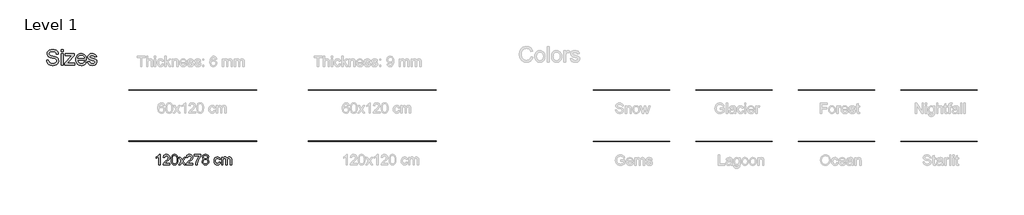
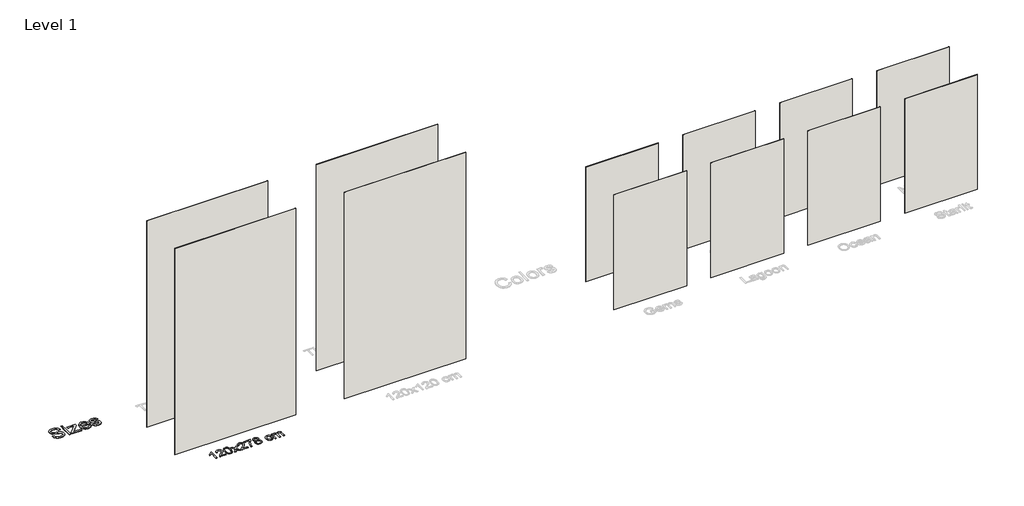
# One storey, part 1 of 7: 12 walls, 2 proxies.
"""IFC4 building model written with IfcOpenShell, lengths in millimetres."""

from ifc_helpers import new_model, si_unit, origin, origin_with_axes, place, context, project, spatial, polyline, outline, extrude, element, save

model = new_model("IFC4")

# Units and contexts
model_context = context("Model", 3, world=origin())
ifc_project = project(units=[si_unit("LENGTHUNIT", "METRE", prefix="MILLI")], contexts=[model_context])

# Site, building, storey
site = spatial("IfcSite", under=ifc_project)
building = spatial("IfcBuilding", under=site)
storey = spatial("IfcBuildingStorey", under=building, Name="Level 1", Elevation=0.0)

# Proxies
placement = place(None, origin())
element("IfcBuildingElementProxy", 1, Name="400mm Arial", ObjectType="400mm Arial", at=placement, inside=storey, context=model_context, shape_type="SweptSolid", body=[
    extrude(outline(polyline([(-22215.9447638, 7785.1077423), (-22266.1729189, 7785.1077423), (-22266.1729189, 8098.2488966), (-22287.1421926, 8081.2895366), (-22313.7523236, 8064.3547021), (-22366.629229, 8038.9953699), (-22366.629229, 8086.4766728), (-22327.1800164, 8107.9364558), (-22293.003779, 8133.4674663), (-22266.0625543, 8160.6171575), (-22248.3183794, 8186.9329829), (-22215.9447638, 8186.9329829), (-22215.9447638, 7785.1077423)])), origin_with_axes(), (0.0, 0.0, 1.0), 5.0),
    extrude(outline(polyline([(-21839.2336007, 7835.3358974), (-21839.2336007, 7785.1077423), (-22102.9314149, 7785.1077423), (-22101.8277689, 7802.7906035), (-22097.5358123, 7819.7377008), (-22085.138189, 7846.8015529), (-22066.9770812, 7873.0560646), (-22040.7225695, 7900.5368497), (-22004.0447346, 7931.2795217), (-21949.8557167, 7979.4230122), (-21917.3717365, 8014.9604129), (-21901.1481405, 8043.8023613), (-21895.7402752, 8071.8594948), (-21900.8538349, 8097.0103605), (-21916.1945141, 8117.9183206), (-21939.77575, 8132.008201), (-21969.6109798, 8136.7048278), (-22000.9422631, 8132.1185656), (-22025.2837884, 8118.359779), (-22040.9923496, 8096.5075885), (-22046.4247404, 8067.6411146), (-22096.6528955, 8073.919634), (-22092.3333477, 8099.8491833), (-22084.4760014, 8122.5045828), (-22073.0808566, 8141.8858326), (-22058.1479133, 8157.9929326), (-22040.020528, 8170.6542046), (-22019.0420572, 8179.6979703), (-21995.212501, 8185.1242298), (-21968.5318593, 8186.9329829), (-21941.6120943, 8184.9218947), (-21917.6537794, 8178.8886299), (-21896.6569145, 8168.8331887), (-21878.6214997, 8154.7555711), (-21864.1361461, 8137.6981092), (-21853.789465, 8118.7031355), (-21847.5814563, 8097.77065), (-21845.5121201, 8074.9006526), (-21847.7439375, 8050.8779584), (-21854.4393899, 8027.272197), (-21866.3219783, 8003.2617654), (-21884.1152041, 7978.0250606), (-21912.478906, 7947.8955252), (-21956.0729224, 7909.206602), (-22013.8549211, 7860.8914333), (-22036.516452, 7835.3358974), (-21839.2336007, 7835.3358974)])), origin_with_axes(), (0.0, 0.0, 1.0), 5.0),
    extrude(outline(polyline([(-21789.0054456, 7982.783001), (-21785.314363, 8047.1010365), (-21774.2411149, 8098.3960494), (-21755.8960661, 8137.4528546), (-21744.0380031, 8152.6862348), (-21730.3895811, 8165.0562669), (-21714.9048148, 8174.6273302), (-21697.5377189, 8181.4638039), (-21657.1565386, 8186.9329829), (-21626.2054, 8183.6956213), (-21598.4916231, 8173.9835367), (-21575.3150574, 8158.1768736), (-21557.9755527, 8136.6557769), (-21544.8789536, 8109.6041875), (-21534.431105, 8077.2060465), (-21527.5884999, 8036.0645767), (-21525.3076315, 7982.783001), (-21528.961926, 7918.8328476), (-21539.9248094, 7867.660462), (-21558.1594937, 7828.5668687), (-21569.9899655, 7813.2875031), (-21583.6291905, 7800.8530917), (-21599.1323509, 7791.2176491), (-21616.554629, 7784.3351901), (-21657.1565386, 7778.8292229), (-21684.8212646, 7781.2204559), (-21709.346731, 7788.3941548), (-21730.7329376, 7800.3503196), (-21748.9798846, 7817.0889504), (-21766.4910675, 7847.3472445), (-21778.9990554, 7885.0490177), (-21786.5038481, 7930.1942698), (-21789.0054456, 7982.783001)]), holes=[polyline([(-21738.7772906, 7982.8811029), (-21737.3057626, 7939.2165758), (-21732.8911786, 7903.8723131), (-21725.5335387, 7876.8483149), (-21715.2328429, 7858.1445811), (-21702.773906, 7845.4189297), (-21688.941543, 7836.3291788), (-21673.7357538, 7830.8753282), (-21657.1565386, 7829.057378), (-21640.5773233, 7830.8814596), (-21625.3715342, 7836.3537042), (-21611.5391712, 7845.474112), (-21599.0802343, 7858.2426829), (-21588.7795384, 7876.9770736), (-21581.4218985, 7903.9949404), (-21577.0073146, 7939.2962835), (-21575.5357866, 7982.8811029), (-21576.9582636, 8025.3898675), (-21581.2256948, 8060.1117964), (-21588.33808, 8087.0468898), (-21598.2954193, 8106.1951477), (-21610.5458898, 8119.5431328), (-21624.5376683, 8129.0774078), (-21640.270755, 8134.7979728), (-21657.7451498, 8136.7048278), (-21674.2385259, 8135.0248334), (-21689.1867976, 8129.9848501), (-21702.589965, 8121.5848778), (-21714.448028, 8109.8249167), (-21725.0920803, 8088.9782703), (-21732.6949749, 8060.8720859), (-21737.2567117, 8025.5063634), (-21738.7772906, 7982.8811029)])]), origin_with_axes(), (0.0, 0.0, 1.0), 5.0),
    extrude(outline(polyline([(-21500.193554, 7785.1077423), (-21392.8701132, 7933.5358646), (-21493.9150346, 8080.1981534), (-21433.6804892, 8080.1981534), (-21384.9238621, 8009.4667084), (-21362.0661275, 7976.2101761), (-21342.2495507, 8003.4824946), (-21286.7238949, 8080.1981534), (-21226.2931458, 8080.1981534), (-21332.4393642, 7933.4377628), (-21230.2172204, 7785.1077423), (-21290.5498676, 7785.1077423), (-21352.1578391, 7874.3804398), (-21363.3414518, 7890.7634513), (-21439.7628049, 7785.1077423), (-21500.193554, 7785.1077423)])), origin_with_axes(), (0.0, 0.0, 1.0), 5.0),
    extrude(outline(polyline([(-20941.4053288, 7835.3358974), (-20941.4053288, 7785.1077423), (-21205.1031429, 7785.1077423), (-21203.9994969, 7802.7906035), (-21199.7075403, 7819.7377008), (-21187.3099171, 7846.8015529), (-21169.1488092, 7873.0560646), (-21142.8942975, 7900.5368497), (-21106.2164626, 7931.2795217), (-21052.0274447, 7979.4230122), (-21019.5434645, 8014.9604129), (-21003.3198685, 8043.8023613), (-20997.9120032, 8071.8594948), (-21003.0255629, 8097.0103605), (-21018.3662421, 8117.9183206), (-21041.947478, 8132.008201), (-21071.7827078, 8136.7048278), (-21103.1139911, 8132.1185656), (-21127.4555165, 8118.359779), (-21143.1640776, 8096.5075885), (-21148.5964684, 8067.6411146), (-21198.8246235, 8073.919634), (-21194.5050758, 8099.8491833), (-21186.6477295, 8122.5045828), (-21175.2525847, 8141.8858326), (-21160.3196414, 8157.9929326), (-21142.192256, 8170.6542046), (-21121.2137853, 8179.6979703), (-21097.384229, 8185.1242298), (-21070.7035873, 8186.9329829), (-21043.7838223, 8184.9218947), (-21019.8255074, 8178.8886299), (-20998.8286425, 8168.8331887), (-20980.7932277, 8154.7555711), (-20966.3078741, 8137.6981092), (-20955.961193, 8118.7031355), (-20949.7531844, 8097.77065), (-20947.6838481, 8074.9006526), (-20949.9156656, 8050.8779584), (-20956.6111179, 8027.272197), (-20968.4937063, 8003.2617654), (-20986.2869322, 7978.0250606), (-21014.650634, 7947.8955252), (-21058.2446504, 7909.206602), (-21116.0266491, 7860.8914333), (-21138.68818, 7835.3358974), (-20941.4053288, 7835.3358974)])), origin_with_axes(), (0.0, 0.0, 1.0), 5.0),
    extrude(outline(polyline([(-20891.1771737, 8130.4263084), (-20891.1771737, 8180.6544635), (-20627.4793595, 8180.6544635), (-20627.4793595, 8140.0402913), (-20665.0646367, 8092.4731493), (-20702.2820319, 8031.9810865), (-20735.1093686, 7964.082333), (-20759.5244703, 7894.2951185), (-20771.4928979, 7842.0804006), (-20778.1638248, 7785.1077423), (-20828.3919798, 7785.1077423), (-20822.959589, 7836.8810018), (-20808.4282502, 7898.4153968), (-20785.1903709, 7963.6408746), (-20753.6383584, 8026.4873821), (-20716.801108, 8083.3006249), (-20677.7075146, 8130.4263084), (-20891.1771737, 8130.4263084)])), origin_with_axes(), (0.0, 0.0, 1.0), 5.0),
    extrude(outline(polyline([(-20510.3457323, 8006.4255506), (-20537.2379061, 8019.6693024), (-20556.1102525, 8037.6219438), (-20567.2570769, 8059.9155927), (-20570.9726851, 8086.1823672), (-20568.9493341, 8106.6672629), (-20562.8792812, 8125.4476388), (-20552.7625263, 8142.5234947), (-20538.5990695, 8157.8948308), (-20521.0694924, 8170.5990223), (-20500.8543768, 8179.6734449), (-20477.9537226, 8185.1180984), (-20452.3675298, 8186.9329829), (-20426.6587097, 8185.0751788), (-20403.5863773, 8179.5017666), (-20383.1505324, 8170.2127462), (-20365.3511752, 8157.2081177), (-20350.930201, 8141.5363447), (-20340.6295052, 8124.2458909), (-20334.4490876, 8105.3367564), (-20332.3889485, 8084.808941), (-20336.0555057, 8059.3882952), (-20347.0551773, 8037.474791), (-20365.5105908, 8019.6325142), (-20391.5443733, 8006.4255506), (-20360.630023, 7990.4962602), (-20338.1279076, 7967.0376517), (-20324.4059092, 7937.1778964), (-20319.8319097, 7902.0451658), (-20322.1005153, 7876.992402), (-20328.9063323, 7854.0243027), (-20340.2493604, 7833.1408681), (-20356.1295999, 7814.3420982), (-20375.7131848, 7798.8052153), (-20398.1662492, 7787.7074417), (-20423.4887932, 7781.0487776), (-20451.6808168, 7778.8292229), (-20479.8728403, 7781.0579747), (-20505.1953843, 7787.7442299), (-20527.6484488, 7798.8879887), (-20547.2320337, 7814.489251), (-20563.1122731, 7833.4198453), (-20574.4553013, 7854.5516003), (-20581.2611182, 7877.8845158), (-20583.5297238, 7903.418592), (-20578.7717834, 7939.9124859), (-20564.497962, 7969.9316567), (-20541.4440236, 7992.4460348), (-20510.3457323, 8006.4255506)]), holes=[polyline([(-20520.74453, 8084.7108392), (-20516.2931579, 8062.7850723), (-20502.9390414, 8045.2738893), (-20481.0745882, 8033.795971), (-20451.0922056, 8029.9699983), (-20421.8087988, 8033.7714456), (-20400.2754393, 8045.1757874), (-20387.0316875, 8062.0983592), (-20382.6171036, 8082.4544963), (-20387.1788403, 8103.5831855), (-20400.8640505, 8121.0575803), (-20422.6917156, 8132.7930159), (-20451.6808168, 8136.7048278), (-20480.853859, 8132.8788551), (-20502.6447358, 8121.4009368), (-20516.2195815, 8104.5764669), (-20520.74453, 8084.7108392)]), polyline([(-20533.3015688, 7905.1844255), (-20531.2046414, 7885.9687226), (-20524.9138593, 7867.3661564), (-20513.301051, 7851.1425604), (-20495.238045, 7839.0637683), (-20473.6065837, 7831.5589756), (-20451.2884093, 7829.057378), (-20417.0999092, 7834.3180905), (-20403.2062325, 7840.8939812), (-20391.4462714, 7850.1002281), (-20375.4066164, 7874.0002951), (-20370.0600648, 7903.6147957), (-20375.5782947, 7933.7320684), (-20392.1329845, 7958.1594328), (-20404.2117767, 7967.6017374), (-20418.3752335, 7974.3462406), (-20452.956141, 7979.7418432), (-20486.6663945, 7974.419817), (-20500.4037214, 7967.7672843), (-20512.0625149, 7958.4537384), (-20527.9918053, 7934.4923578), (-20533.3015688, 7905.1844255)])]), origin_with_axes(), (0.0, 0.0, 1.0), 5.0),
    extrude(outline(polyline([(-19918.0066691, 7891.8425718), (-19867.778514, 7885.5640525), (-19873.2415617, 7861.8632549), (-19881.7825553, 7840.8909155), (-19893.401495, 7822.6470342), (-19908.0983807, 7807.1316111), (-19925.2539444, 7794.7493163), (-19944.2489181, 7785.90482), (-19965.0833018, 7780.5981222), (-19987.7570954, 7778.8292229), (-20015.9276592, 7781.297098), (-20041.1858238, 7788.7007231), (-20063.5315894, 7801.0400984), (-20082.9649557, 7818.3152237), (-20098.6949767, 7840.2011368), (-20109.930706, 7866.372875), (-20116.6721436, 7896.8304386), (-20118.9192894, 7931.5738273), (-20115.0810539, 7976.2714897), (-20103.5663475, 8015.0094638), (-20084.1912291, 8046.2916961), (-20056.7717577, 8068.6221333), (-20023.9689465, 8082.0130379), (-19988.4438085, 8086.4766728), (-19966.1593566, 8084.9438311), (-19946.0024889, 8080.3453062), (-19927.9732055, 8072.6810979), (-19912.0715063, 8061.9512064), (-19898.5671713, 8048.4008863), (-19887.7299809, 8032.2753921), (-19879.5599349, 8013.574724), (-19874.0570334, 7992.298882), (-19924.2851885, 7986.0203626), (-19933.3963992, 8007.9338668), (-19947.5843815, 8023.642428), (-19966.0643204, 8033.0969953), (-19988.051401, 8036.2485177), (-20005.1180599, 8034.6972819), (-20020.5108557, 8030.0435747), (-20034.2297884, 8022.287396), (-20046.2748581, 8011.4287457), (-20056.0819789, 7997.216238), (-20063.0870653, 7979.3984867), (-20067.2901171, 7957.9754918), (-20068.6911343, 7932.9472534), (-20063.2096926, 7885.8706208), (-20056.3578904, 7867.9333078), (-20046.7653674, 7853.7299971), (-20034.9594211, 7842.9357263), (-20021.4673489, 7835.2255328), (-20006.2891509, 7830.5994167), (-19989.4248271, 7829.057378), (-19963.41557, 7832.9078762), (-19942.0906771, 7844.4593709), (-19926.5783196, 7864.0061675), (-19918.0066691, 7891.8425718)])), origin_with_axes(), (0.0, 0.0, 1.0), 5.0),
    extrude(outline(polyline([(-19823.8288783, 7785.1077423), (-19823.8288783, 8080.1981534), (-19773.6007233, 8080.1981534), (-19773.6007233, 8031.63773), (-19758.493036, 8053.9436416), (-19739.0688667, 8071.4180364), (-19715.9904028, 8082.7120137), (-19689.9198321, 8086.4766728), (-19661.9853259, 8082.6384373), (-19639.5935752, 8071.1237308), (-19622.8672071, 8052.6928429), (-19611.9288491, 8028.1060629), (-19593.6205885, 8053.6432047), (-19572.7371539, 8071.8840203), (-19549.2785453, 8082.8285096), (-19523.2447628, 8086.4766728), (-19503.1369461, 8084.9591595), (-19485.4878074, 8080.4066198), (-19470.2973467, 8072.8190537), (-19457.5655639, 8062.1964611), (-19447.5009257, 8048.4162147), (-19440.3118984, 8031.3556871), (-19435.998482, 8011.0148785), (-19434.5606765, 7987.3937887), (-19434.5606765, 7785.1077423), (-19484.7888316, 7785.1077423), (-19484.7888316, 7965.8113783), (-19485.9537912, 7990.8641422), (-19489.4486702, 8007.7499258), (-19495.9969697, 8019.3136832), (-19506.322191, 8028.4003684), (-19519.6027311, 8034.2864804), (-19535.0169867, 8036.2485177), (-19562.2279916, 8031.2207971), (-19584.4112759, 8016.1376353), (-19593.0166489, 8004.5677465), (-19599.1633439, 7989.9689627), (-19604.0806999, 7951.6847097), (-19604.0806999, 7785.1077423), (-19654.308855, 7785.1077423), (-19654.308855, 7971.4031847), (-19657.2151227, 7999.8036747), (-19665.933926, 8020.0617099), (-19681.2746052, 8032.2018157), (-19704.0465007, 8036.2485177), (-19723.3970937, 8033.5507164), (-19741.2271077, 8025.4573125), (-19755.9423875, 8012.1645097), (-19765.9487778, 7993.8685118), (-19771.6877369, 7968.4846542), (-19773.6007233, 7933.9282721), (-19773.6007233, 7785.1077423), (-19823.8288783, 7785.1077423)])), origin_with_axes(), (0.0, 0.0, 1.0), 5.0),
])
element("IfcBuildingElementProxy", 2, Name="600mm Arial", ObjectType="600mm Arial", at=placement, inside=storey, context=model_context, shape_type="SweptSolid", body=[
    extrude(outline(polyline([(-26653.6818115, 11886.1060003), (-26578.3395788, 11886.1060003), (-26569.694352, 11844.2962116), (-26554.0593672, 11810.6901913), (-26529.6687909, 11784.0187467), (-26494.7567895, 11763.0126847), (-26452.0824781, 11749.3826568), (-26404.4049715, 11744.8393142), (-26362.4296359, 11748.2790108), (-26325.6782246, 11758.5981008), (-26295.8981771, 11774.9320614), (-26274.8369328, 11796.4163699), (-26262.3105509, 11821.0828577), (-26258.1350902, 11846.963356), (-26261.2620872, 11872.1816668), (-26270.6430781, 11893.978675), (-26289.6993654, 11912.5751099), (-26321.8522518, 11928.1917006), (-26431.5546628, 11956.9600726), (-26503.5675633, 11975.9979658), (-26549.6447832, 11994.1161541), (-26587.1503526, 12019.4632236), (-26613.7298268, 12050.1813702), (-26629.5671467, 12085.6084063), (-26634.8462533, 12125.0821444), (-26633.213777, 12147.5183476), (-26628.3163479, 12169.2095897), (-26620.1539661, 12190.1558708), (-26608.7266317, 12210.3571909), (-26594.1631032, 12228.9904139), (-26576.5921394, 12245.232404), (-26556.0137403, 12259.0831611), (-26532.4279059, 12270.5426853), (-26479.4161103, 12285.9385468), (-26420.7389321, 12291.0705006), (-26357.1689233, 12285.6994235), (-26301.5451657, 12269.5861921), (-26277.2097717, 12257.584042), (-26255.8542219, 12243.0619002), (-26237.4785162, 12226.0197668), (-26222.0826547, 12206.4576417), (-26209.786199, 12184.945742), (-26200.7087108, 12162.0542849), (-26194.85019, 12137.7832703), (-26192.2106367, 12112.1326982), (-26267.5528693, 12112.1326982), (-26272.5928527, 12136.1737865), (-26281.3852323, 12157.087878), (-26293.9300084, 12174.8749724), (-26310.2271808, 12189.5350699), (-26330.5802521, 12200.9945941), (-26355.2927252, 12209.1799685), (-26384.3645998, 12214.0911931), (-26417.7958762, 12215.728268), (-26452.2940103, 12214.1095872), (-26481.7705551, 12209.2535449), (-26506.2255107, 12201.160141), (-26525.6588771, 12189.8293755), (-26540.4661274, 12176.2085447), (-26551.0427348, 12161.2449445), (-26557.3886992, 12144.9385751), (-26559.5040207, 12127.2894364), (-26558.0049016, 12112.105107), (-26553.5075442, 12098.3371233), (-26546.0119485, 12085.9854853), (-26535.5181146, 12075.050193), (-26519.000213, 12064.6943149), (-26492.990956, 12054.2280721), (-26412.4983754, 12032.9644928), (-26329.4306209, 12012.7677713), (-26279.1779404, 11995.1462237), (-26236.2277174, 11967.8125914), (-26219.6224439, 11951.7453453), (-26206.2637289, 11934.0778125), (-26195.9952227, 11914.9019635), (-26188.6605755, 11894.3097688), (-26182.7928576, 11848.8763424), (-26184.4805163, 11825.3089021), (-26189.5434922, 11802.4312405), (-26197.9817855, 11780.2433577), (-26209.7953961, 11758.7452536), (-26224.7773903, 11738.7692612), (-26242.7208346, 11721.1477137), (-26263.625729, 11705.8806109), (-26287.4920735, 11692.9679528), (-26313.6254907, 11682.6994467), (-26341.3316035, 11675.3647994), (-26401.4619156, 11669.4970816), (-26440.0021531, 11671.0789741), (-26475.2774379, 11675.8246519), (-26507.28777, 11683.7341148), (-26536.0331494, 11694.8073628), (-26561.68832, 11709.0627901), (-26584.4280259, 11726.5187908), (-26604.2522669, 11747.1753648), (-26621.1610431, 11771.0325122), (-26634.781874, 11797.3176808), (-26644.742279, 11825.2583183), (-26651.0422581, 11854.8544248), (-26653.6818115, 11886.1060003)])), origin_with_axes(), (0.0, 0.0, 1.0), 5.0),
    extrude(outline(polyline([(-26079.1972878, 12206.3104889), (-26079.1972878, 12281.6527215), (-26003.8550552, 12281.6527215), (-26003.8550552, 12206.3104889), (-26079.1972878, 12206.3104889)])), origin_with_axes(), (0.0, 0.0, 1.0), 5.0),
    extrude(outline(polyline([(-26079.1972878, 11678.9148606), (-26079.1972878, 12121.5504772), (-26003.8550552, 12121.5504772), (-26003.8550552, 11678.9148606), (-26079.1972878, 11678.9148606)])), origin_with_axes(), (0.0, 0.0, 1.0), 5.0),
    extrude(outline(polyline([(-25937.9306016, 11678.9148606), (-25937.9306016, 11749.8425093), (-25677.9116075, 12046.2082446), (-25754.8725208, 12046.2082446), (-25919.0950435, 12046.2082446), (-25919.0950435, 12121.5504772), (-25570.6372177, 12121.5504772), (-25570.6372177, 12057.5390101), (-25801.2256522, 11794.5769599), (-25836.5423238, 11754.2570932), (-25749.4278673, 11754.2570932), (-25561.2194386, 11754.2570932), (-25561.2194386, 11678.9148606), (-25937.9306016, 11678.9148606)])), origin_with_axes(), (0.0, 0.0, 1.0), 5.0),
    extrude(outline(polyline([(-25175.9734132, 11810.7637677), (-25102.1027086, 11801.3459886), (-25113.4288755, 11771.7590792), (-25128.718971, 11745.6854428), (-25147.9729949, 11723.1250794), (-25171.1909473, 11704.0779891), (-25198.1337049, 11688.9488421), (-25228.5621444, 11678.1423084), (-25262.4762659, 11671.6583883), (-25299.8760692, 11669.4970816), (-25346.6246737, 11673.2264853), (-25388.2781127, 11684.4146965), (-25424.8363859, 11703.0617151), (-25456.2994936, 11729.1675412), (-25481.6005778, 11762.0056078), (-25499.6727808, 11800.8493479), (-25510.5161026, 11845.6987617), (-25514.1305432, 11896.553849), (-25510.4793144, 11949.1333831), (-25499.525628, 11995.4773175), (-25481.269484, 12035.585652), (-25455.7108824, 12069.4583867), (-25424.3305482, 12096.3689547), (-25388.6092064, 12115.5907889), (-25348.5468572, 12127.1238895), (-25304.1435004, 12130.9682563), (-25261.1702848, 12127.1330865), (-25222.3081505, 12115.6275771), (-25187.5570976, 12096.4517281), (-25156.9171259, 12069.6055395), (-25131.9057487, 12035.8063812), (-25114.0404793, 11995.7716231), (-25103.3213177, 11949.5012651), (-25099.7482638, 11896.9953074), (-25100.1897222, 11876.6882212), (-25438.7883106, 11876.6882212), (-25434.4243104, 11846.6230652), (-25425.7468939, 11820.2919114), (-25412.7560609, 11797.6947598), (-25395.4518116, 11778.8316105), (-25374.790639, 11763.9599809), (-25351.7290364, 11753.3373883), (-25326.2670038, 11746.9638327), (-25298.4045412, 11744.8393142), (-25258.3054038, 11748.7756515), (-25224.5338366, 11760.5846636), (-25197.0898398, 11781.0021143), (-25175.9734132, 11810.7637677)]), holes=[polyline([(-25438.7883106, 11952.0304539), (-25175.0904964, 11952.0304539), (-25185.2808277, 11991.8352857), (-25194.0456162, 12007.4886646), (-25205.2568201, 12020.3093522), (-25225.8030295, 12035.760396), (-25249.1819303, 12046.7968558), (-25275.3935224, 12053.4187317), (-25304.437806, 12055.6260237), (-25330.9299081, 12053.8647886), (-25355.2239154, 12048.5810835), (-25377.3198277, 12039.7749082), (-25397.2176451, 12027.4462629), (-25413.9148892, 12012.1653645), (-25426.4090815, 11994.5024302), (-25434.7002219, 11974.45746), (-25438.7883106, 11952.0304539)])]), origin_with_axes(), (0.0, 0.0, 1.0), 5.0),
    extrude(outline(polyline([(-25052.6593685, 11810.7637677), (-24977.3171358, 11820.1815468), (-24972.7645961, 11803.0014576), (-24965.4345474, 11787.955084), (-24955.3269896, 11775.042426), (-24942.4419227, 11764.2634835), (-24926.7425586, 11755.7654094), (-24908.1921089, 11749.6953565), (-24862.5379533, 11744.8393142), (-24817.4356207, 11749.2906863), (-24799.9060437, 11754.8549015), (-24785.7241928, 11762.6448027), (-24766.962211, 11781.9953957), (-24762.2717156, 11792.8295204), (-24760.7082171, 11804.4361974), (-24762.2809126, 11814.6081346), (-24766.9989992, 11823.6396375), (-24785.8713455, 11838.2813409), (-24814.0878946, 11847.8462728), (-24863.4208701, 11859.7656495), (-24932.178015, 11879.6496713), (-24976.8756774, 11896.6274254), (-25005.5888672, 11915.1502838), (-25026.392594, 11939.6696188), (-25039.0293405, 11968.6219318), (-25043.2415894, 12000.4437244), (-25039.857075, 12029.6351607), (-25029.703532, 12056.5825169), (-25013.7006652, 12080.2189351), (-24992.7681796, 12099.4775575), (-24971.9644528, 12111.5992693), (-24944.8699439, 12121.7712064), (-24913.544792, 12128.6689938), (-24880.0491363, 12130.9682563), (-24831.0104664, 12127.2710423), (-24788.3729431, 12116.1794001), (-24754.0863412, 12098.7785817), (-24730.1004351, 12076.153839), (-24714.2079329, 12046.6313089), (-24704.2015426, 12008.5371283), (-24779.5437752, 11999.1193492), (-24789.0535248, 12022.8293438), (-24807.8706889, 12040.6900147), (-24836.1792084, 12051.8920214), (-24874.1630244, 12055.6260237), (-24917.425947, 12052.0575683), (-24946.2678954, 12041.3522023), (-24962.4914914, 12025.9011585), (-24967.8993568, 12008.0956699), (-24965.6552766, 11996.5073871), (-24958.9230361, 11986.169903), (-24947.4083296, 11976.9360649), (-24930.8168516, 11969.5416368), (-24865.9224677, 11953.5019818), (-24755.33714, 11918.0381575), (-24726.1273095, 11901.0787975), (-24703.9808134, 11877.8654436), (-24690.0196917, 11848.3245194), (-24685.3659845, 11812.3824485), (-24690.8290321, 11775.226367), (-24707.218175, 11740.2775774), (-24733.9080137, 11710.2768007), (-24770.273149, 11687.9647577), (-24814.1982592, 11674.1140006), (-24863.5680229, 11669.4970816), (-24904.1178158, 11671.7227676), (-24939.5356549, 11678.3998258), (-24969.8215402, 11689.5282562), (-24994.9754716, 11705.1080587), (-25015.521681, 11725.0656569), (-25031.9844003, 11749.3274745), (-25044.3636295, 11777.8935114), (-25052.6593685, 11810.7637677)])), origin_with_axes(), (0.0, 0.0, 1.0), 5.0),
])

# Walls
element("IfcWall", 3, ObjectType="Ceramiche Caesar - Anima Wonder - Snow - 60x120 - 9 mm - Polished", at=placement, inside=storey, context=model_context, shape_type="SweptSolid", body=[
    extrude(outline(polyline([(-2332.7191564, 10698.8255368), (-5332.7191564, 10698.8255368), (-5332.7191564, 10707.8255368), (-2332.7191564, 10707.8255368), (-2332.7191564, 10698.8255368)])), origin_with_axes(), (0.0, 0.0, 1.0), 5000.0),
])
element("IfcWall", 4, ObjectType="Ceramiche Caesar - Anima Wonder - Glacier - 60x120 - 9 mm - Polished", at=placement, inside=storey, context=model_context, shape_type="SweptSolid", body=[
    extrude(outline(polyline([(1667.2808436, 10698.8255368), (-1332.7191564, 10698.8255368), (-1332.7191564, 10707.8255368), (1667.2808436, 10707.8255368), (1667.2808436, 10698.8255368)])), origin_with_axes(), (0.0, 0.0, 1.0), 5000.0),
])
element("IfcWall", 5, ObjectType="Ceramiche Caesar - Anima Wonder - Forest - 60x120 - 9 mm - Polished", at=placement, inside=storey, context=model_context, shape_type="SweptSolid", body=[
    extrude(outline(polyline([(5667.2808436, 10698.8255368), (2667.2808436, 10698.8255368), (2667.2808436, 10707.8255368), (5667.2808436, 10707.8255368), (5667.2808436, 10698.8255368)])), origin_with_axes(), (0.0, 0.0, 1.0), 5000.0),
])
element("IfcWall", 6, ObjectType="Ceramiche Caesar - Anima Wonder - Nightfall - 60x120 - 9 mm - Polished", at=placement, inside=storey, context=model_context, shape_type="SweptSolid", body=[
    extrude(outline(polyline([(9667.2808436, 10698.8255368), (6667.2808436, 10698.8255368), (6667.2808436, 10707.8255368), (9667.2808436, 10707.8255368), (9667.2808436, 10698.8255368)])), origin_with_axes(), (0.0, 0.0, 1.0), 5000.0),
])
element("IfcWall", 7, ObjectType="Ceramiche Caesar - Anima Wonder - Gems - 60x120 - 6 mm - Polished", at=placement, inside=storey, context=model_context, shape_type="SweptSolid", body=[
    extrude(outline(polyline([(-2332.7191564, 8694.3255368), (-5332.7191564, 8694.3255368), (-5332.7191564, 8700.3255368), (-2332.7191564, 8700.3255368), (-2332.7191564, 8694.3255368)])), origin_with_axes(), (0.0, 0.0, 1.0), 5000.0),
])
element("IfcWall", 8, ObjectType="Ceramiche Caesar - Anima Wonder - Lagoon - 60x120 - 6 mm - Polished", at=placement, inside=storey, context=model_context, shape_type="SweptSolid", body=[
    extrude(outline(polyline([(1667.2808436, 8694.3255368), (-1332.7191564, 8694.3255368), (-1332.7191564, 8700.3255368), (1667.2808436, 8700.3255368), (1667.2808436, 8694.3255368)])), origin_with_axes(), (0.0, 0.0, 1.0), 5000.0),
])
element("IfcWall", 9, ObjectType="Ceramiche Caesar - Anima Wonder - Ocean - 60x120 - 6 mm - Polished", at=placement, inside=storey, context=model_context, shape_type="SweptSolid", body=[
    extrude(outline(polyline([(5667.2808436, 8694.3255368), (2667.2808436, 8694.3255368), (2667.2808436, 8700.3255368), (5667.2808436, 8700.3255368), (5667.2808436, 8694.3255368)])), origin_with_axes(), (0.0, 0.0, 1.0), 5000.0),
])
element("IfcWall", 10, ObjectType="Ceramiche Caesar - Anima Wonder - Starlit - 60x120 - 6 mm - Polished", at=placement, inside=storey, context=model_context, shape_type="SweptSolid", body=[
    extrude(outline(polyline([(9667.2808436, 8694.3255368), (6667.2808436, 8694.3255368), (6667.2808436, 8700.3255368), (9667.2808436, 8700.3255368), (9667.2808436, 8694.3255368)])), origin_with_axes(), (0.0, 0.0, 1.0), 5000.0),
])
element("IfcWall", 11, ObjectType="Ceramiche Caesar - Anima Wonder - Starlit - 60x120 - 6 mm - Polished", at=placement, inside=storey, context=model_context, shape_type="SweptSolid", body=[
    extrude(outline(polyline([(-18443.7333503, 10701.8255368), (-23443.7333503, 10701.8255368), (-23443.7333503, 10707.8255368), (-18443.7333503, 10707.8255368), (-18443.7333503, 10701.8255368)])), origin_with_axes(), (0.0, 0.0, 1.0), 9000.0),
])
element("IfcWall", 12, ObjectType="Ceramiche Caesar - Anima Wonder - Lagoon - 120x278 - 6 mm - Polished", at=placement, inside=storey, context=model_context, shape_type="SweptSolid", body=[
    extrude(outline(polyline([(-18443.7333503, 8701.8255368), (-23443.7333503, 8701.8255368), (-23443.7333503, 8707.8255368), (-18443.7333503, 8707.8255368), (-18443.7333503, 8701.8255368)])), origin_with_axes(), (0.0, 0.0, 1.0), 9000.0),
])
element("IfcWall", 13, ObjectType="Ceramiche Caesar - Anima Wonder - Glacier - 60x120 - 9 mm - Stripes", at=placement, inside=storey, context=model_context, shape_type="SweptSolid", body=[
    extrude(outline(polyline([(-11443.7333503, 10700.3255368), (-16443.7333503, 10700.3255368), (-16443.7333503, 10709.3255368), (-11443.7333503, 10709.3255368), (-11443.7333503, 10700.3255368)])), origin_with_axes(), (0.0, 0.0, 1.0), 9000.0),
])
element("IfcWall", 14, ObjectType="Ceramiche Caesar - Anima Wonder - Nightfall - 120x120 - 9 mm - Matt", at=placement, inside=storey, context=model_context, shape_type="SweptSolid", body=[
    extrude(outline(polyline([(-11443.7333503, 8700.3255368), (-16443.7333503, 8700.3255368), (-16443.7333503, 8709.3255368), (-11443.7333503, 8709.3255368), (-11443.7333503, 8700.3255368)])), origin_with_axes(), (0.0, 0.0, 1.0), 9000.0),
])

save(model, "model.ifc")
